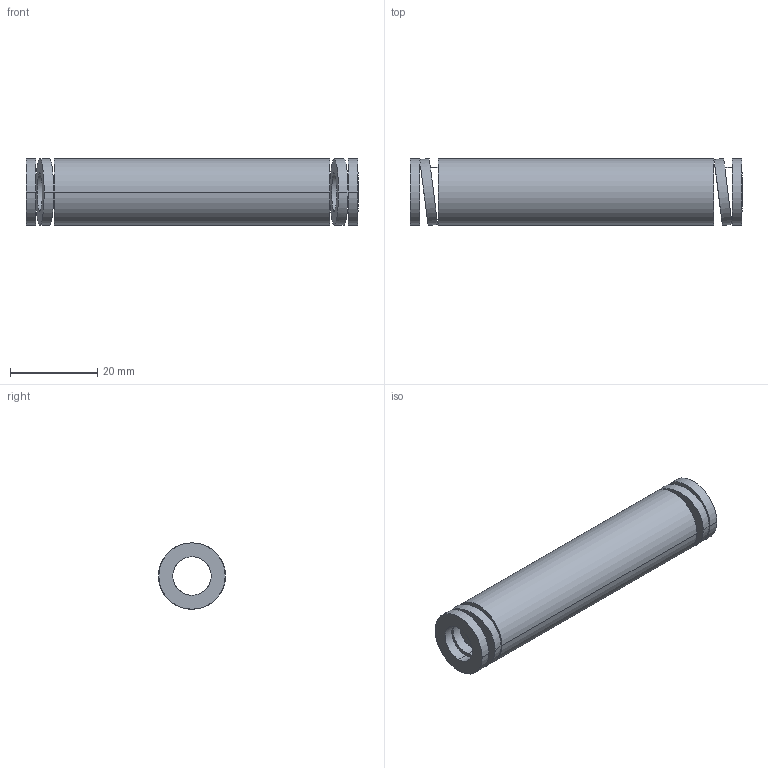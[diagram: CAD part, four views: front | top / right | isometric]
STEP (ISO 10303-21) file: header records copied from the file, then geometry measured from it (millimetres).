
FILE_DESCRIPTION(('CATIA V5 STEP Exchange'),'2;1');
FILE_NAME('C:\Users\Utente\Desktop\IO LAVORO\3D X SITO CF\X SITO\3D files 392B\392-B16-076.stp','2021-08-12T14:04:26+00:00',('none'),('none'),'CATIA Version 5 Release 20 GA (IN-10)','CATIA V5 STEP AP203','none');
FILE_SCHEMA(('CONFIG_CONTROL_DESIGN'));
Length unit declared in the file: millimetre
Products named in the file (1): 392-B16-076
Bounding box: 76 x 15.36 x 15.2 mm (x, y, z)
Volume: 8681 mm3; surface area: 6634.5 mm2
Topology: 1 solids, 1 shells, 38 faces, 92 edges, 64 vertices
Faces by surface type: cylinder 28, plane 10
Entity records: 1584 total; most frequent: CARTESIAN_POINT 695, ORIENTED_EDGE 184, DIRECTION 129, EDGE_CURVE 92, AXIS2_PLACEMENT_3D 64, VERTEX_POINT 64, EDGE_LOOP 56, B_SPLINE_CURVE_WITH_KNOTS 39
